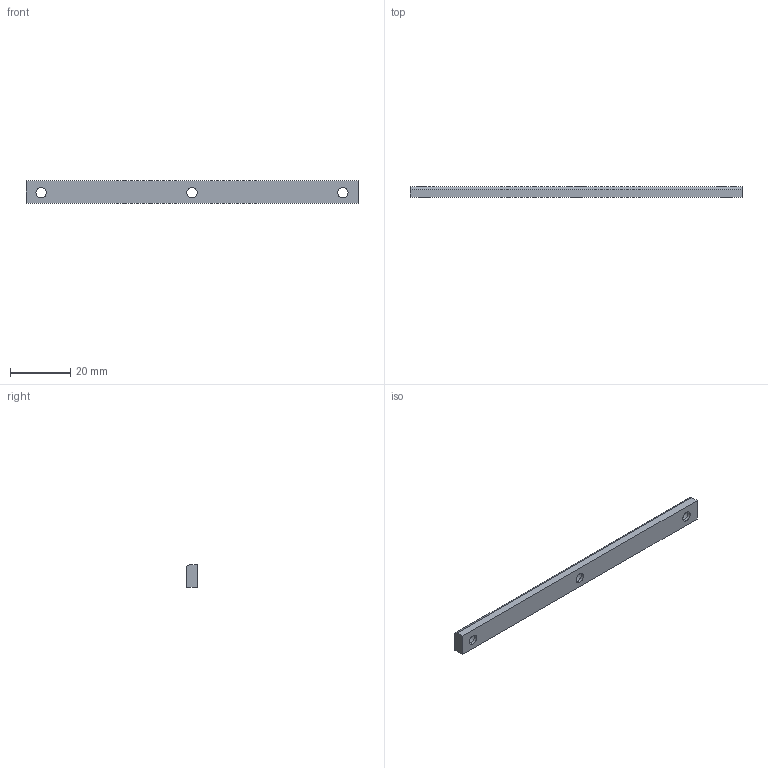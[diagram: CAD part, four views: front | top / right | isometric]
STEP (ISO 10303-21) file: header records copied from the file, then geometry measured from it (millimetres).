
FILE_DESCRIPTION (( 'STEP AP214' ), '1' );
FILE_NAME ('MBCO-00-03-007 奻蹋絳砃啣.STEP', '2026-08-19T10:29:11', ( '' ), ( '' ), 'SwSTEP 2.0', 'SolidWorks 2022', '' );
FILE_SCHEMA (( 'AUTOMOTIVE_DESIGN' ));
Length unit declared in the file: millimetre
Products named in the file (1): MBCO-00-03-007 上料导向板
Bounding box: 110 x 3.5 x 7.5 mm (x, y, z)
Volume: 2616.5 mm3; surface area: 2544.4 mm2
Topology: 1 solids, 1 shells, 22 faces, 51 edges, 34 vertices
Faces by surface type: cylinder 12, plane 10
Entity records: 685 total; most frequent: DIRECTION 121, CARTESIAN_POINT 108, ORIENTED_EDGE 102, EDGE_CURVE 51, AXIS2_PLACEMENT_3D 47, VERTEX_POINT 34, EDGE_LOOP 31, LINE 27
